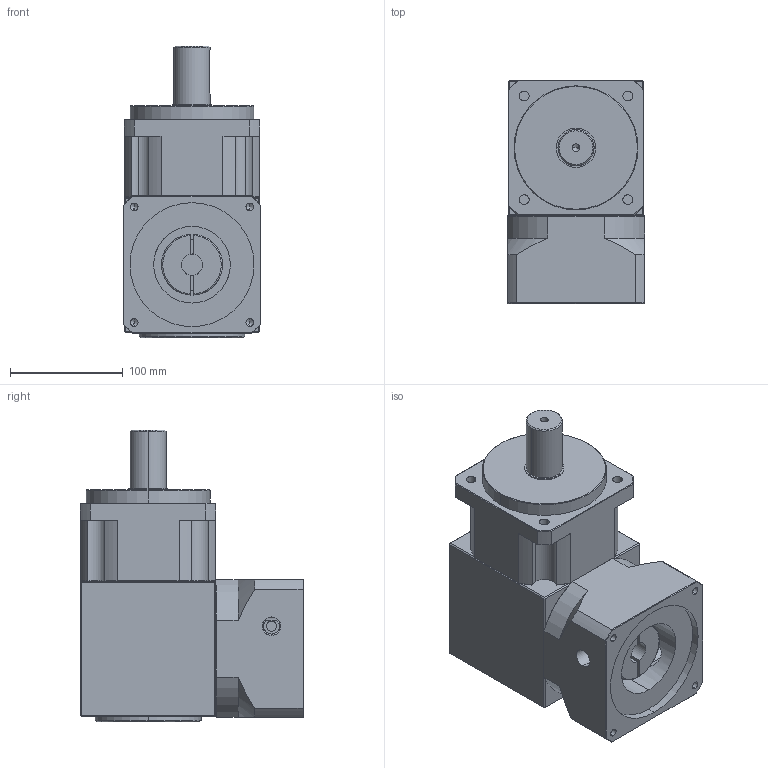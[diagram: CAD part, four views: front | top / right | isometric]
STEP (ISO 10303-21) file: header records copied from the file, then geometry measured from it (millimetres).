
FILE_DESCRIPTION (( 'STEP AP203' ), '1' );
FILE_NAME ('KHL120-L1£r110PCD£r145M8.STEP', '2014-03-24T06:51:02', ( 'KELLY' ), ( '' ), 'SwSTEP 2.0', 'SolidWorks 2012', '' );
FILE_SCHEMA (( 'CONFIG_CONTROL_DESIGN' ));
Length unit declared in the file: millimetre
Products named in the file (1): KHL120-L1｣r110PCD｣r145M8
Bounding box: 122 x 198 x 259 mm (x, y, z)
Volume: 3659982.6 mm3; surface area: 252457 mm2
Topology: 3 solids, 3 shells, 209 faces, 501 edges, 302 vertices
Faces by surface type: plane 80, cylinder 79, cone 46, torus 4
Entity records: 6641 total; most frequent: CARTESIAN_POINT 1727, DIRECTION 1032, ORIENTED_EDGE 982, EDGE_CURVE 491, AXIS2_PLACEMENT_3D 401, VERTEX_POINT 302, EDGE_LOOP 241, LINE 230
